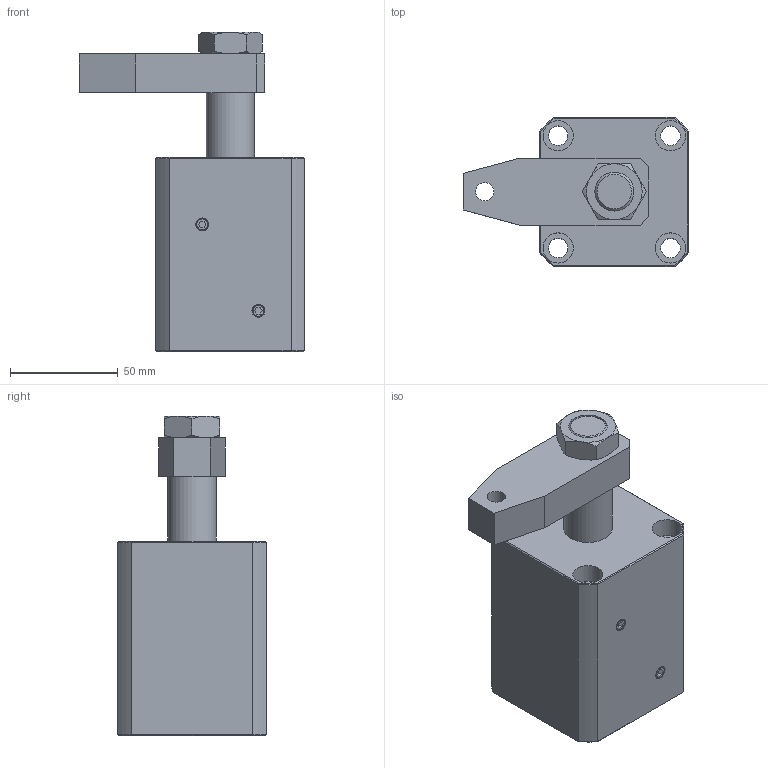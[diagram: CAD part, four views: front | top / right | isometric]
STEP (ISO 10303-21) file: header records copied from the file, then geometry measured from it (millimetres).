
FILE_DESCRIPTION(/* description */ ('Unknown'),/* implementation_level */ '2;1');
FILE_NAME(/* name */ 'HSC-M40S-A',/* time_stamp */ '2019-05-27T15:09:47+08:00',/* author */ ('Unknown'),/* organization */ ('Unknown'),/* preprocessor_version */ 'ST-DEVELOPER v16.7',/* originating_system */ 'DEX',/* authorisation */ $);
FILE_SCHEMA (('AUTOMOTIVE_DESIGN {1 0 10303 214 3 1 1}'));
Length unit declared in the file: millimetre
Products named in the file (4): HSC-M40S-A; HSC-M40S-CYLINDER; HSC-4002-S-AXLE CENTRE; HSC-40S-A
Assembly tree (3 placements, depth 2):
  HSC-M40S-A
    HSC-M40S-CYLINDER
    HSC-4002-S-AXLE CENTRE
    HSC-40S-A
Bounding box: 104.5 x 69 x 148 mm (x, y, z)
Volume: 421532.8 mm3; surface area: 74863.2 mm2
Topology: 3 solids, 3 shells, 127 faces, 272 edges, 172 vertices
Faces by surface type: plane 65, cone 33, cylinder 26, torus 3
Full cylindrical faces by diameter (mm): 4.1 x2, 5 x2, 8.5 x1, 9 x4, 11 x2, 14 x4, 18 x2, 19 x1, 22.4 x2, 40 x2
Entity records: 3599 total; most frequent: CARTESIAN_POINT 637, DIRECTION 534, ORIENTED_EDGE 442, AXIS2_PLACEMENT_3D 222, EDGE_CURVE 221, FACE_BOUND 200, EDGE_LOOP 198, VERTEX_POINT 161
